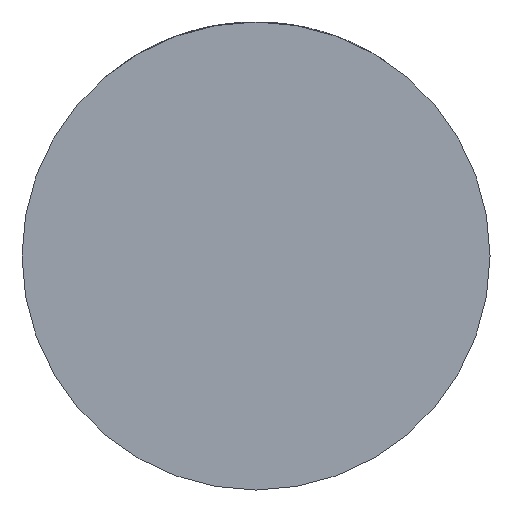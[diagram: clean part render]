
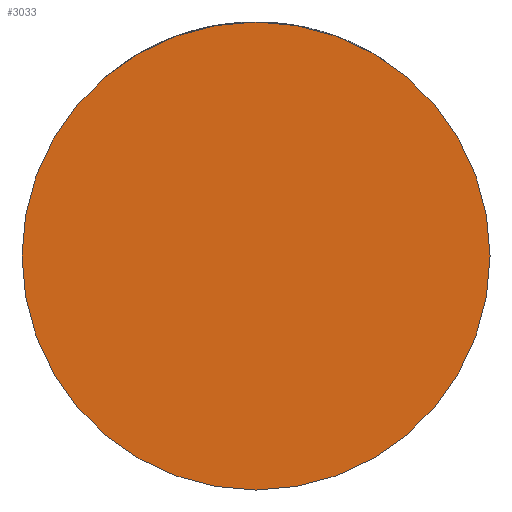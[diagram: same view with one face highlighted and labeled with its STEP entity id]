
A CAD part, front view. The second image highlights one B-rep face of the part: STEP entity #3033.
In plain terms, the highlighted planar face has unit normal (0, -1, 0).
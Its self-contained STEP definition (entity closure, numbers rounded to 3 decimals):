
#190 = CIRCLE ( 'NONE', #841, 32. ) ;
#368 = CARTESIAN_POINT ( 'NONE',  ( 0., -27., 0. ) ) ;
#666 = VERTEX_POINT ( 'NONE', #3754 ) ;
#841 = AXIS2_PLACEMENT_3D ( 'NONE', #368, #1357, #2728 ) ;
#896 = AXIS2_PLACEMENT_3D ( 'NONE', #3604, #3278, #1569 ) ;
#903 = PLANE ( 'NONE',  #896 ) ;
#1232 = DIRECTION ( 'NONE',  ( 0., -1., 0. ) ) ;
#1357 = DIRECTION ( 'NONE',  ( 0., -1., 0. ) ) ;
#1384 = ORIENTED_EDGE ( 'NONE', *, *, #1705, .T. ) ;
#1472 = CARTESIAN_POINT ( 'NONE',  ( -32., -27., 0. ) ) ;
#1569 = DIRECTION ( 'NONE',  ( 1., 0., 0. ) ) ;
#1578 = VERTEX_POINT ( 'NONE', #1472 ) ;
#1705 = EDGE_CURVE ( 'NONE', #666, #1578, #4327, .T. ) ;
#2263 = FACE_OUTER_BOUND ( 'NONE', #3530, .T. ) ;
#2447 = EDGE_CURVE ( 'NONE', #1578, #666, #190, .T. ) ;
#2728 = DIRECTION ( 'NONE',  ( 1., 0., 0. ) ) ;
#2895 = ORIENTED_EDGE ( 'NONE', *, *, #2447, .T. ) ;
#3033 = ADVANCED_FACE ( 'NONE', ( #2263 ), #903, .T. ) ;
#3278 = DIRECTION ( 'NONE',  ( 0., -1., 0. ) ) ;
#3351 = CARTESIAN_POINT ( 'NONE',  ( 0., -27., 0. ) ) ;
#3530 = EDGE_LOOP ( 'NONE', ( #2895, #1384 ) ) ;
#3602 = AXIS2_PLACEMENT_3D ( 'NONE', #3351, #1232, #3700 ) ;
#3604 = CARTESIAN_POINT ( 'NONE',  ( 0., -27., 0. ) ) ;
#3700 = DIRECTION ( 'NONE',  ( 1., 0., 0. ) ) ;
#3754 = CARTESIAN_POINT ( 'NONE',  ( 32., -27., 0. ) ) ;
#4327 = CIRCLE ( 'NONE', #3602, 32. ) ;
